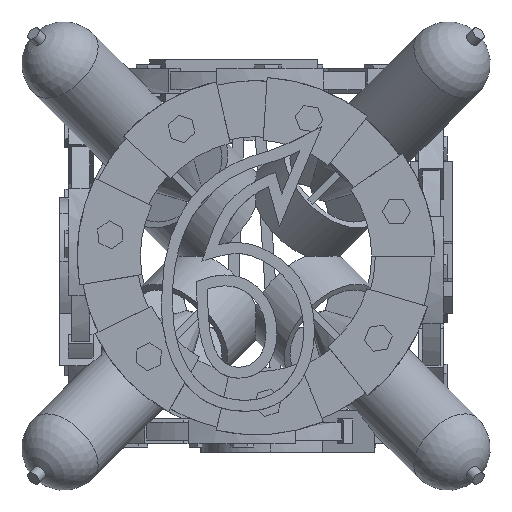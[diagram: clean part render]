
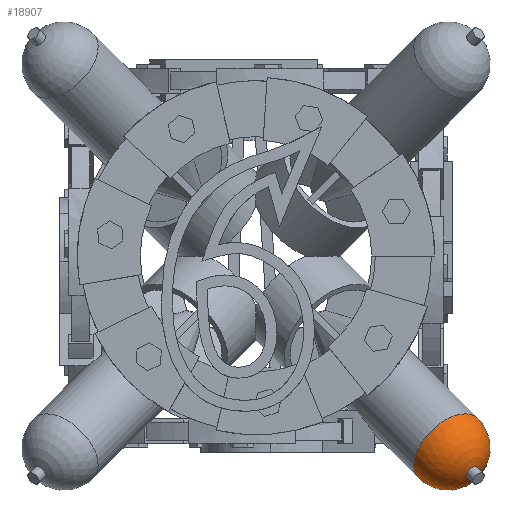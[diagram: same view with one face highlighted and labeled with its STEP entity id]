
A CAD part, front view. The second image highlights one B-rep face of the part: STEP entity #18907.
In plain terms, the highlighted spherical face has radius 6 mm.
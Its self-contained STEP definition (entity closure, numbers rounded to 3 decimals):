
#665 = CYLINDRICAL_SURFACE('',#666,6.);
#666 = AXIS2_PLACEMENT_3D('',#667,#668,#669);
#667 = CARTESIAN_POINT('',(15.588,-15.588,
    -15.588));
#668 = DIRECTION('',(0.577,-0.577,-0.577));
#669 = DIRECTION('',(-0.707,0.,-0.707
    ));
#7012 = VERTEX_POINT('',#7013);
#7013 = CARTESIAN_POINT('',(23.172,-27.415,
    -31.657));
#7034 = EDGE_CURVE('',#7012,#7012,#7035,.T.);
#7035 = SURFACE_CURVE('',#7036,(#7041,#7048),.PCURVE_S1.);
#7036 = CIRCLE('',#7037,6.);
#7037 = AXIS2_PLACEMENT_3D('',#7038,#7039,#7040);
#7038 = CARTESIAN_POINT('',(27.415,-27.415,
    -27.415));
#7039 = DIRECTION('',(-0.577,0.577,0.577));
#7040 = DIRECTION('',(-0.707,0.,
    -0.707));
#7041 = PCURVE('',#665,#7042);
#7042 = DEFINITIONAL_REPRESENTATION('',(#7043),#7047);
#7043 = LINE('',#7044,#7045);
#7044 = CARTESIAN_POINT('',(-0.,20.484));
#7045 = VECTOR('',#7046,1.);
#7046 = DIRECTION('',(-1.,0.));
#7047 = ( GEOMETRIC_REPRESENTATION_CONTEXT(2) 
PARAMETRIC_REPRESENTATION_CONTEXT() REPRESENTATION_CONTEXT('2D SPACE',''
  ) );
#7048 = PCURVE('',#7049,#7054);
#7049 = SPHERICAL_SURFACE('',#7050,6.);
#7050 = AXIS2_PLACEMENT_3D('',#7051,#7052,#7053);
#7051 = CARTESIAN_POINT('',(27.415,-27.415,
    -27.415));
#7052 = DIRECTION('',(0.577,-0.577,-0.577));
#7053 = DIRECTION('',(-0.707,0.,
    -0.707));
#7054 = DEFINITIONAL_REPRESENTATION('',(#7055),#7059);
#7055 = LINE('',#7056,#7057);
#7056 = CARTESIAN_POINT('',(-0.,0.));
#7057 = VECTOR('',#7058,1.);
#7058 = DIRECTION('',(-1.,0.));
#7059 = ( GEOMETRIC_REPRESENTATION_CONTEXT(2) 
PARAMETRIC_REPRESENTATION_CONTEXT() REPRESENTATION_CONTEXT('2D SPACE',''
  ) );
#18907 = ADVANCED_FACE('',(#18908),#7049,.T.);
#18908 = FACE_BOUND('',#18909,.F.);
#18909 = EDGE_LOOP('',(#18910,#18911,#18935,#18962));
#18910 = ORIENTED_EDGE('',*,*,#7034,.T.);
#18911 = ORIENTED_EDGE('',*,*,#18912,.T.);
#18912 = EDGE_CURVE('',#7012,#18913,#18915,.T.);
#18913 = VERTEX_POINT('',#18914);
#18914 = CARTESIAN_POINT('',(30.123,-30.831,
    -31.538));
#18915 = SEAM_CURVE('',#18916,(#18921,#18928),.PCURVE_S1.);
#18916 = CIRCLE('',#18917,6.);
#18917 = AXIS2_PLACEMENT_3D('',#18918,#18919,#18920);
#18918 = CARTESIAN_POINT('',(27.415,-27.415,
    -27.415));
#18919 = DIRECTION('',(-0.408,-0.816,0.408));
#18920 = DIRECTION('',(-0.707,0.,
    -0.707));
#18921 = PCURVE('',#7049,#18922);
#18922 = DEFINITIONAL_REPRESENTATION('',(#18923),#18927);
#18923 = LINE('',#18924,#18925);
#18924 = CARTESIAN_POINT('',(-0.,0.));
#18925 = VECTOR('',#18926,1.);
#18926 = DIRECTION('',(-0.,1.));
#18927 = ( GEOMETRIC_REPRESENTATION_CONTEXT(2) 
PARAMETRIC_REPRESENTATION_CONTEXT() REPRESENTATION_CONTEXT('2D SPACE',''
  ) );
#18928 = PCURVE('',#7049,#18929);
#18929 = DEFINITIONAL_REPRESENTATION('',(#18930),#18934);
#18930 = LINE('',#18931,#18932);
#18931 = CARTESIAN_POINT('',(-6.283,0.));
#18932 = VECTOR('',#18933,1.);
#18933 = DIRECTION('',(-0.,1.));
#18934 = ( GEOMETRIC_REPRESENTATION_CONTEXT(2) 
PARAMETRIC_REPRESENTATION_CONTEXT() REPRESENTATION_CONTEXT('2D SPACE',''
  ) );
#18935 = ORIENTED_EDGE('',*,*,#18936,.F.);
#18936 = EDGE_CURVE('',#18913,#18913,#18937,.T.);
#18937 = SURFACE_CURVE('',#18938,(#18943,#18950),.PCURVE_S1.);
#18938 = CIRCLE('',#18939,1.);
#18939 = AXIS2_PLACEMENT_3D('',#18940,#18941,#18942);
#18940 = CARTESIAN_POINT('',(30.831,-30.831,
    -30.831));
#18941 = DIRECTION('',(-0.577,0.577,0.577));
#18942 = DIRECTION('',(-0.707,0.,
    -0.707));
#18943 = PCURVE('',#7049,#18944);
#18944 = DEFINITIONAL_REPRESENTATION('',(#18945),#18949);
#18945 = LINE('',#18946,#18947);
#18946 = CARTESIAN_POINT('',(-0.,1.403));
#18947 = VECTOR('',#18948,1.);
#18948 = DIRECTION('',(-1.,0.));
#18949 = ( GEOMETRIC_REPRESENTATION_CONTEXT(2) 
PARAMETRIC_REPRESENTATION_CONTEXT() REPRESENTATION_CONTEXT('2D SPACE',''
  ) );
#18950 = PCURVE('',#18951,#18956);
#18951 = CYLINDRICAL_SURFACE('',#18952,1.);
#18952 = AXIS2_PLACEMENT_3D('',#18953,#18954,#18955);
#18953 = CARTESIAN_POINT('',(30.831,-30.831,
    -30.831));
#18954 = DIRECTION('',(0.577,-0.577,-0.577));
#18955 = DIRECTION('',(-0.707,0.,
    -0.707));
#18956 = DEFINITIONAL_REPRESENTATION('',(#18957),#18961);
#18957 = LINE('',#18958,#18959);
#18958 = CARTESIAN_POINT('',(-0.,0.));
#18959 = VECTOR('',#18960,1.);
#18960 = DIRECTION('',(-1.,0.));
#18961 = ( GEOMETRIC_REPRESENTATION_CONTEXT(2) 
PARAMETRIC_REPRESENTATION_CONTEXT() REPRESENTATION_CONTEXT('2D SPACE',''
  ) );
#18962 = ORIENTED_EDGE('',*,*,#18912,.F.);
